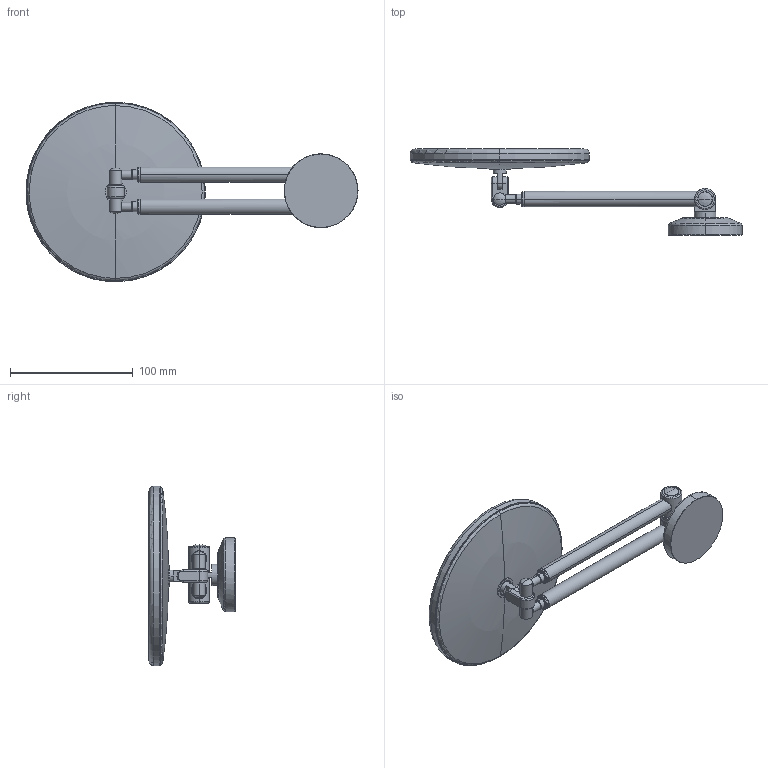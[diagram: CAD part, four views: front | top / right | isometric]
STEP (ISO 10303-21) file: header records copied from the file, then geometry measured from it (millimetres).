
FILE_DESCRIPTION(('THIS FILE CONTAINS SOME STEP INSTANCES'),'1');
FILE_NAME('sta_020.stp','2015-11-30T11:19:38',('UNDEFINED'),('UNDEFINED'),'T-FLEX CAD STEP converter','T-FLEX CAD','');
FILE_SCHEMA(('CONFIG_CONTROL_DESIGN'));
Length unit declared in the file: metre
Products named in the file (6): 3D 鐨飹懤艜_45; 3D 鐨飹懤艜_15; 3D 鐨飹懤艜_13; 3D 鐨飹懤艜_48; 3D 鐨飹懤艜_35; up_020_08-light
Bounding box: 269.94 x 69.99 x 146 mm (x, y, z)
Volume: 177108.2 mm3; surface area: 107247.3 mm2
Topology: 6 solids, 7 shells, 219 faces, 484 edges, 281 vertices
Faces by surface type: cylinder 73, plane 50, cone 34, torus 34, sphere 20, bspline 8
Entity records: 8542 total; most frequent: CARTESIAN_POINT 4352, ORIENTED_EDGE 940, DIRECTION 750, EDGE_CURVE 470, AXIS2_PLACEMENT_3D 300, VERTEX_POINT 281, EDGE_LOOP 237, ADVANCED_FACE 219
